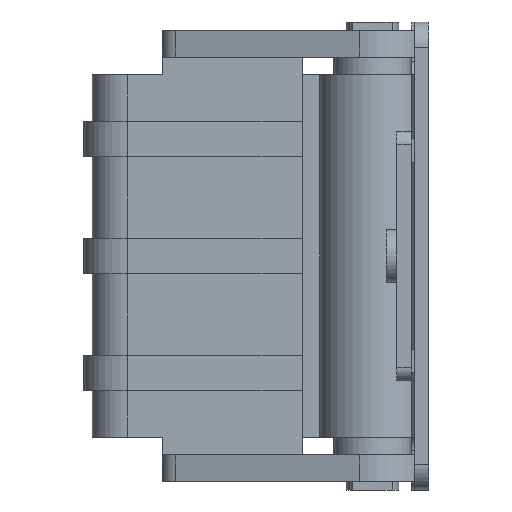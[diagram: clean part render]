
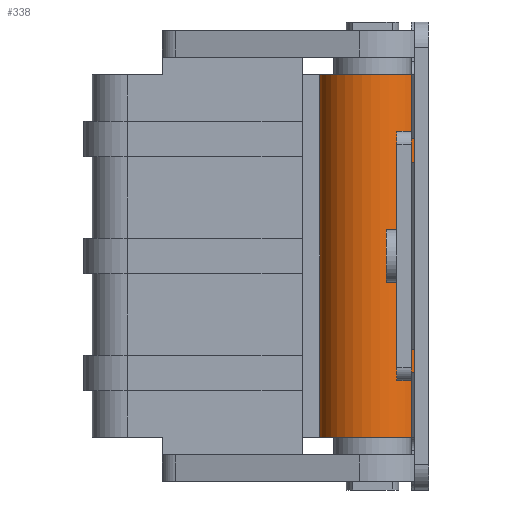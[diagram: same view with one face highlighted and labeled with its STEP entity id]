
A CAD part, left-side view. The second image highlights one B-rep face of the part: STEP entity #338.
In plain terms, the highlighted cylindrical face has radius 4.5 mm (diameter 9 mm), a full revolution.
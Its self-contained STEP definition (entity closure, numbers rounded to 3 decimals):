
#338 = ADVANCED_FACE( '', ( #763, #764, #765 ), #766, .T. );
#763 = FACE_OUTER_BOUND( '', #1293, .T. );
#764 = FACE_BOUND( '', #1294, .T. );
#765 = FACE_OUTER_BOUND( '', #1295, .T. );
#766 = CYLINDRICAL_SURFACE( '', #1296, 4.5 );
#1293 = EDGE_LOOP( '', ( #2164, #2165, #2166, #2167 ) );
#1294 = EDGE_LOOP( '', ( #2168, #2169, #2170, #2171 ) );
#1295 = EDGE_LOOP( '', ( #2172, #2173, #2174, #2175 ) );
#1296 = AXIS2_PLACEMENT_3D( '', #2176, #2177, #2178 );
#2164 = ORIENTED_EDGE( '', *, *, #3498, .F. );
#2165 = ORIENTED_EDGE( '', *, *, #3499, .T. );
#2166 = ORIENTED_EDGE( '', *, *, #3500, .F. );
#2167 = ORIENTED_EDGE( '', *, *, #3501, .T. );
#2168 = ORIENTED_EDGE( '', *, *, #3502, .F. );
#2169 = ORIENTED_EDGE( '', *, *, #3424, .T. );
#2170 = ORIENTED_EDGE( '', *, *, #3235, .T. );
#2171 = ORIENTED_EDGE( '', *, *, #3292, .T. );
#2172 = ORIENTED_EDGE( '', *, *, #3503, .F. );
#2173 = ORIENTED_EDGE( '', *, *, #3458, .T. );
#2174 = ORIENTED_EDGE( '', *, *, #3382, .T. );
#2175 = ORIENTED_EDGE( '', *, *, #3199, .T. );
#2176 = CARTESIAN_POINT( '', ( 0., 0., 15.5 ) );
#2177 = DIRECTION( '', ( 0., 0., 1. ) );
#2178 = DIRECTION( '', ( -1., 0., 0. ) );
#3199 = EDGE_CURVE( '', #3820, #3821, #3822, .F. );
#3235 = EDGE_CURVE( '', #3887, #3888, #3889, .F. );
#3292 = EDGE_CURVE( '', #3888, #3987, #3989, .F. );
#3382 = EDGE_CURVE( '', #4138, #3820, #4139, .T. );
#3424 = EDGE_CURVE( '', #4208, #3887, #4209, .T. );
#3458 = EDGE_CURVE( '', #4256, #4138, #4258, .T. );
#3498 = EDGE_CURVE( '', #4323, #4324, #4325, .T. );
#3499 = EDGE_CURVE( '', #4323, #4326, #4327, .T. );
#3500 = EDGE_CURVE( '', #4328, #4326, #4329, .F. );
#3501 = EDGE_CURVE( '', #4328, #4324, #4330, .F. );
#3502 = EDGE_CURVE( '', #4208, #3987, #4331, .F. );
#3503 = EDGE_CURVE( '', #4256, #3821, #4332, .F. );
#3820 = VERTEX_POINT( '', #4742 );
#3821 = VERTEX_POINT( '', #4743 );
#3822 = LINE( '', #4744, #4745 );
#3887 = VERTEX_POINT( '', #4830 );
#3888 = VERTEX_POINT( '', #4831 );
#3889 = CIRCLE( '', #4832, 4.5 );
#3987 = VERTEX_POINT( '', #4963 );
#3989 = LINE( '', #4966, #4967 );
#4138 = VERTEX_POINT( '', #5170 );
#4139 = CIRCLE( '', #5171, 4.5 );
#4208 = VERTEX_POINT( '', #5264 );
#4209 = LINE( '', #5265, #5266 );
#4256 = VERTEX_POINT( '', #5332 );
#4258 = LINE( '', #5335, #5336 );
#4323 = VERTEX_POINT( '', #5424 );
#4324 = VERTEX_POINT( '', #5425 );
#4325 = CIRCLE( '', #5426, 4.5 );
#4326 = VERTEX_POINT( '', #5427 );
#4327 = LINE( '', #5428, #5429 );
#4328 = VERTEX_POINT( '', #5430 );
#4329 = CIRCLE( '', #5431, 4.5 );
#4330 = LINE( '', #5432, #5433 );
#4331 = CIRCLE( '', #5434, 4.5 );
#4332 = CIRCLE( '', #5435, 4.5 );
#4742 = CARTESIAN_POINT( '', ( -3.034, -3.323, -15.5 ) );
#4743 = CARTESIAN_POINT( '', ( -3.034, -3.323, -10. ) );
#4744 = CARTESIAN_POINT( '', ( -3.034, -3.323, 15.5 ) );
#4745 = VECTOR( '', #5979, 1000. );
#4830 = CARTESIAN_POINT( '', ( 0., -4.5, -8. ) );
#4831 = CARTESIAN_POINT( '', ( -3.059, -3.3, -8. ) );
#4832 = AXIS2_PLACEMENT_3D( '', #6036, #6037, #6038 );
#4963 = CARTESIAN_POINT( '', ( -3.059, -3.3, 8. ) );
#4966 = CARTESIAN_POINT( '', ( -3.059, -3.3, 15.5 ) );
#4967 = VECTOR( '', #6109, 1000. );
#5170 = CARTESIAN_POINT( '', ( 0., -4.5, -15.5 ) );
#5171 = AXIS2_PLACEMENT_3D( '', #6215, #6216, #6217 );
#5264 = CARTESIAN_POINT( '', ( 0., -4.5, 8. ) );
#5265 = CARTESIAN_POINT( '', ( 0., -4.5, 8. ) );
#5266 = VECTOR( '', #6272, 1000. );
#5332 = CARTESIAN_POINT( '', ( 0., -4.5, -10. ) );
#5335 = CARTESIAN_POINT( '', ( 0., -4.5, 20. ) );
#5336 = VECTOR( '', #6305, 1000. );
#5424 = CARTESIAN_POINT( '', ( 0., -4.5, 15.5 ) );
#5425 = CARTESIAN_POINT( '', ( -3.034, -3.323, 15.5 ) );
#5426 = AXIS2_PLACEMENT_3D( '', #6359, #6360, #6361 );
#5427 = CARTESIAN_POINT( '', ( 0., -4.5, 10. ) );
#5428 = CARTESIAN_POINT( '', ( 0., -4.5, 20. ) );
#5429 = VECTOR( '', #6362, 1000. );
#5430 = CARTESIAN_POINT( '', ( -3.034, -3.323, 10. ) );
#5431 = AXIS2_PLACEMENT_3D( '', #6363, #6364, #6365 );
#5432 = CARTESIAN_POINT( '', ( -3.034, -3.323, 15.5 ) );
#5433 = VECTOR( '', #6366, 1000. );
#5434 = AXIS2_PLACEMENT_3D( '', #6367, #6368, #6369 );
#5435 = AXIS2_PLACEMENT_3D( '', #6370, #6371, #6372 );
#5979 = DIRECTION( '', ( 0., 0., -1. ) );
#6036 = CARTESIAN_POINT( '', ( 0., 0., -8. ) );
#6037 = DIRECTION( '', ( 0., 0., 1. ) );
#6038 = DIRECTION( '', ( 1., 0., 0. ) );
#6109 = DIRECTION( '', ( 0., 0., -1. ) );
#6215 = CARTESIAN_POINT( '', ( 0., 0., -15.5 ) );
#6216 = DIRECTION( '', ( 0., 0., 1. ) );
#6217 = DIRECTION( '', ( 1., 0., 0. ) );
#6272 = DIRECTION( '', ( 0., 0., -1. ) );
#6305 = DIRECTION( '', ( 0., 0., -1. ) );
#6359 = CARTESIAN_POINT( '', ( 0., 0., 15.5 ) );
#6360 = DIRECTION( '', ( 0., 0., 1. ) );
#6361 = DIRECTION( '', ( 1., 0., 0. ) );
#6362 = DIRECTION( '', ( 0., 0., -1. ) );
#6363 = CARTESIAN_POINT( '', ( 0., 0., 10. ) );
#6364 = DIRECTION( '', ( 0., 0., -1. ) );
#6365 = DIRECTION( '', ( -1., 0., 0. ) );
#6366 = DIRECTION( '', ( 0., 0., -1. ) );
#6367 = CARTESIAN_POINT( '', ( 0., 0., 8. ) );
#6368 = DIRECTION( '', ( 0., 0., 1. ) );
#6369 = DIRECTION( '', ( 1., 0., 0. ) );
#6370 = CARTESIAN_POINT( '', ( 0., 0., -10. ) );
#6371 = DIRECTION( '', ( 0., 0., 1. ) );
#6372 = DIRECTION( '', ( 1., 0., 0. ) );
